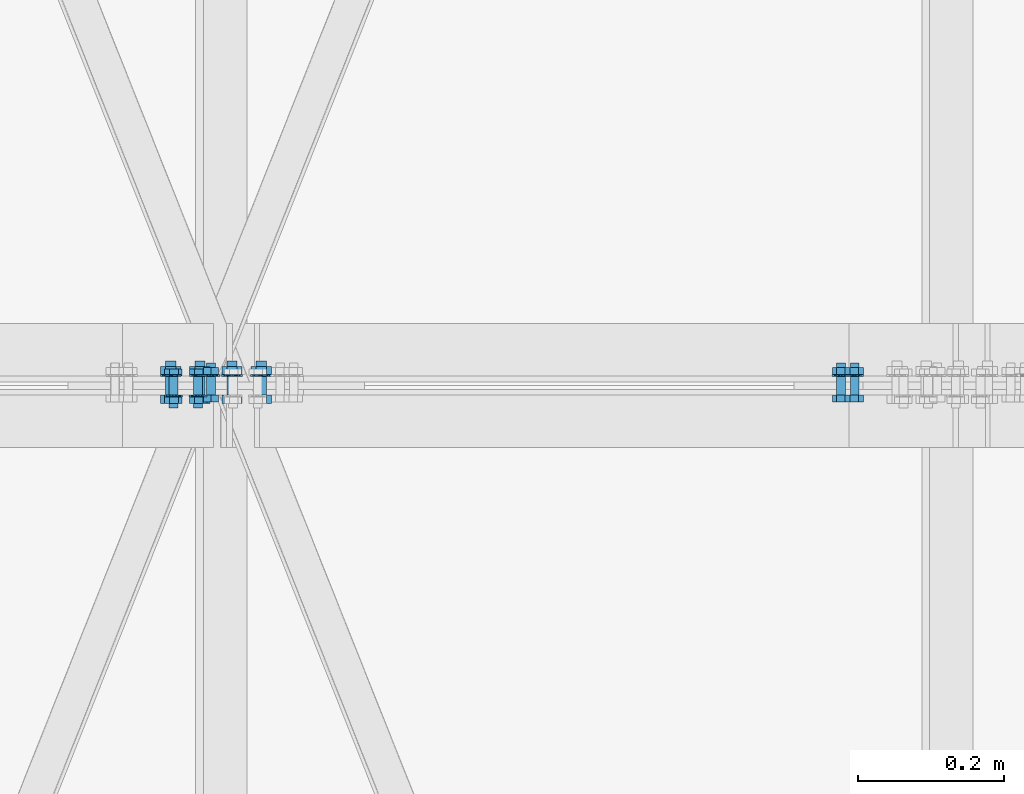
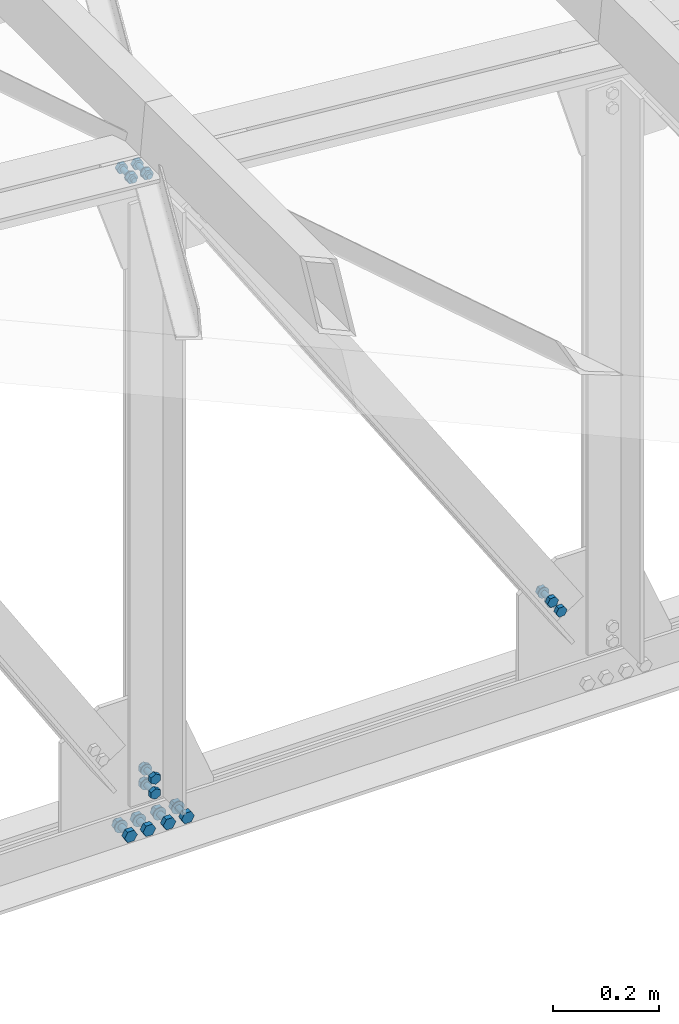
# One storey, part 168 of 251: 40 mechanical fasteners.
"""IFC4 building model written with IfcOpenShell, lengths in metres."""

from ifc_helpers import new_model, si_unit, frame, origin_with_axes, place, context, project, spatial, polyline, outline, extrude, type_object, element, save


model = new_model("IFC4")

# Units and contexts
model_context = context("Model", 3, precision=1e-05, world=origin_with_axes())
ifc_project = project(units=[si_unit("LENGTHUNIT", "METRE"), si_unit("AREAUNIT", "SQUARE_METRE"), si_unit("VOLUMEUNIT", "CUBIC_METRE"), si_unit("MASSUNIT", "GRAM", prefix="KILO"), si_unit("TIMEUNIT", "SECOND"), si_unit("PLANEANGLEUNIT", "RADIAN"), si_unit("SOLIDANGLEUNIT", "STERADIAN"), si_unit("THERMODYNAMICTEMPERATUREUNIT", "DEGREE_CELSIUS")], contexts=[model_context])

# Site, building, storey
placement_1 = place(None, origin_with_axes())
site = spatial("IfcSite", under=ifc_project, at=placement_1, Name="Italia", CompositionType="ELEMENT")
building = spatial("IfcBuilding", under=site, at=placement_1, Name="Deposito", CompositionType="ELEMENT")
storey = spatial("IfcBuildingStorey", under=building, at=placement_1, Name="Storey 0", CompositionType="ELEMENT", Elevation=0.0)

# Mechanical fasteners
mechanical_fastener_type_1 = type_object("IfcMechanicalFastenerType", Name="Reticolare 5", PredefinedType="BOLT")
placement_2 = place(placement_1, origin_with_axes())
mechanical_fastener_1_placement = place(placement_2, origin_with_axes())
element("IfcMechanicalFastener", 1, at=mechanical_fastener_1_placement, inside=storey, type_object=mechanical_fastener_type_1, Name="Reticolare 5", NominalDiameter=0.0139997, context=model_context, shape_type="SweptSolid", body=[
    extrude(outline(polyline([(0.0, 0.0), (-0.0139999, 0.0), (-0.0209999, 0.0121241), (-0.0139999, 0.0242486), (0.0, 0.0242486), (0.00699997, 0.0121241), (0.0, 0.0)])), frame((14.0078, 14.987, 4.99688), z_axis=(0.0, -1.0, 0.0), x_axis=(1.0, 0.0, 0.0)), (0.0, 0.0, 1.0), 0.0112009),
])
mechanical_fastener_type_2 = type_object("IfcMechanicalFastenerType", Name="Reticolare 5", PredefinedType="BOLT")
mechanical_fastener_2_placement = place(placement_2, origin_with_axes())
element("IfcMechanicalFastener", 2, at=mechanical_fastener_2_placement, inside=storey, type_object=mechanical_fastener_type_2, Name="Reticolare 5", NominalDiameter=0.014, context=model_context, shape_type="SweptSolid", body=[
    extrude(outline(polyline([(0.0, 0.0), (-0.000238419, -0.0018115), (-0.000937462, -0.00349998), (-0.0020504, -0.00494957), (-0.00349998, -0.00606203), (-0.00518799, -0.00676155), (-0.00699997, -0.00699997), (-0.00881195, -0.00676155), (-0.0105, -0.00606203), (-0.0119495, -0.00494957), (-0.0130625, -0.00349998), (-0.0137615, -0.0018115), (-0.0139999, 0.0), (-0.0137615, 0.0018115), (-0.0130625, 0.00349998), (-0.0119495, 0.00494957), (-0.0105, 0.00606203), (-0.00881195, 0.00676155), (-0.00699997, 0.00699997), (-0.00518799, 0.00676155), (-0.00349998, 0.00606203), (-0.0020504, 0.00494957), (-0.000937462, 0.00349998), (-0.000238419, 0.0018115), (0.0, 0.0)])), frame((14.0078, 15.034, 5.009), z_axis=(0.0, -1.0, 0.0), x_axis=(1.0, 0.0, 0.0)), (0.0, 0.0, 1.0), 0.0469999),
])
mechanical_fastener_type_3 = type_object("IfcMechanicalFastenerType", Name="Reticolare 5", PredefinedType="BOLT")
mechanical_fastener_3_placement = place(placement_2, origin_with_axes())
element("IfcMechanicalFastener", 3, at=mechanical_fastener_3_placement, inside=storey, type_object=mechanical_fastener_type_3, Name="Reticolare 5", NominalDiameter=0.0139997, context=model_context, shape_type="SweptSolid", body=[
    extrude(outline(polyline([(0.0, 0.0), (-0.0139999, 0.0), (-0.0209999, 0.0121241), (-0.0139999, 0.0242486), (0.0, 0.0242486), (0.00699997, 0.0121241), (0.0, 0.0)])), frame((14.0078, 15.0262, 4.99688), z_axis=(0.0, -1.0, 0.0), x_axis=(1.0, 0.0, 0.0)), (0.0, 0.0, 1.0), 0.0112),
])
mechanical_fastener_type_4 = type_object("IfcMechanicalFastenerType", Name="Reticolare 5", PredefinedType="BOLT")
mechanical_fastener_4_placement = place(placement_2, origin_with_axes())
element("IfcMechanicalFastener", 4, at=mechanical_fastener_4_placement, inside=storey, type_object=mechanical_fastener_type_4, Name="Reticolare 5", NominalDiameter=0.028, context=model_context, shape_type="SweptSolid", body=[
    extrude(outline(polyline([(0.0, 0.0), (-0.000476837, -0.00362349), (-0.00187588, -0.00699997), (-0.0041008, -0.00989962), (-0.00699997, -0.0121245), (-0.0103769, -0.0135231), (-0.0139999, -0.0139999), (-0.0176229, -0.0135231), (-0.0209999, -0.0121245), (-0.0238991, -0.00989962), (-0.026124, -0.00699997), (-0.027523, -0.00362349), (-0.0279999, 0.0), (-0.027523, 0.00362349), (-0.026124, 0.00699997), (-0.0238991, 0.00989962), (-0.0209999, 0.0121245), (-0.0176229, 0.0135231), (-0.0139999, 0.0139999), (-0.0103769, 0.0135231), (-0.00699997, 0.0121245), (-0.0041008, 0.00989962), (-0.00187588, 0.00699997), (-0.000476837, 0.00362349), (0.0, 0.0)])), frame((14.0148, 15.015, 5.009), z_axis=(0.0, -1.0, 0.0), x_axis=(1.0, 0.0, 0.0)), (0.0, 0.0, 1.0), 0.00200081),
])
mechanical_fastener_type_5 = type_object("IfcMechanicalFastenerType", Name="Reticolare 5", PredefinedType="BOLT")
mechanical_fastener_5_placement = place(placement_2, origin_with_axes())
element("IfcMechanicalFastener", 5, at=mechanical_fastener_5_placement, inside=storey, type_object=mechanical_fastener_type_5, Name="Reticolare 5", NominalDiameter=0.0139997, context=model_context, shape_type="SweptSolid", body=[
    extrude(outline(polyline([(0.0, 0.0), (-0.0139999, 0.0), (-0.0209999, 0.0121241), (-0.0139999, 0.0242486), (0.0, 0.0242486), (0.00699997, 0.0121241), (0.0, 0.0)])), frame((13.9678, 14.987, 4.99688), z_axis=(0.0, -1.0, 0.0), x_axis=(1.0, 0.0, 0.0)), (0.0, 0.0, 1.0), 0.0112009),
])
mechanical_fastener_type_6 = type_object("IfcMechanicalFastenerType", Name="Reticolare 5", PredefinedType="BOLT")
mechanical_fastener_6_placement = place(placement_2, origin_with_axes())
element("IfcMechanicalFastener", 6, at=mechanical_fastener_6_placement, inside=storey, type_object=mechanical_fastener_type_6, Name="Reticolare 5", NominalDiameter=0.014, context=model_context, shape_type="SweptSolid", body=[
    extrude(outline(polyline([(0.0, 0.0), (-0.000238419, -0.0018115), (-0.000937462, -0.00349998), (-0.0020504, -0.00494957), (-0.00349998, -0.00606203), (-0.00518799, -0.00676155), (-0.00699997, -0.00699997), (-0.00881195, -0.00676155), (-0.0105, -0.00606203), (-0.0119495, -0.00494957), (-0.0130625, -0.00349998), (-0.0137615, -0.0018115), (-0.0139999, 0.0), (-0.0137615, 0.0018115), (-0.0130625, 0.00349998), (-0.0119495, 0.00494957), (-0.0105, 0.00606203), (-0.00881195, 0.00676155), (-0.00699997, 0.00699997), (-0.00518799, 0.00676155), (-0.00349998, 0.00606203), (-0.0020504, 0.00494957), (-0.000937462, 0.00349998), (-0.000238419, 0.0018115), (0.0, 0.0)])), frame((13.9678, 15.034, 5.009), z_axis=(0.0, -1.0, 0.0), x_axis=(1.0, 0.0, 0.0)), (0.0, 0.0, 1.0), 0.0469999),
])
mechanical_fastener_type_7 = type_object("IfcMechanicalFastenerType", Name="Reticolare 5", PredefinedType="BOLT")
mechanical_fastener_7_placement = place(placement_2, origin_with_axes())
element("IfcMechanicalFastener", 7, at=mechanical_fastener_7_placement, inside=storey, type_object=mechanical_fastener_type_7, Name="Reticolare 5", NominalDiameter=0.0139997, context=model_context, shape_type="SweptSolid", body=[
    extrude(outline(polyline([(0.0, 0.0), (-0.0139999, 0.0), (-0.0209999, 0.0121241), (-0.0139999, 0.0242486), (0.0, 0.0242486), (0.00699997, 0.0121241), (0.0, 0.0)])), frame((13.9678, 15.0262, 4.99688), z_axis=(0.0, -1.0, 0.0), x_axis=(1.0, 0.0, 0.0)), (0.0, 0.0, 1.0), 0.0112),
])
mechanical_fastener_type_8 = type_object("IfcMechanicalFastenerType", Name="Reticolare 5", PredefinedType="BOLT")
mechanical_fastener_8_placement = place(placement_2, origin_with_axes())
element("IfcMechanicalFastener", 8, at=mechanical_fastener_8_placement, inside=storey, type_object=mechanical_fastener_type_8, Name="Reticolare 5", NominalDiameter=0.028, context=model_context, shape_type="SweptSolid", body=[
    extrude(outline(polyline([(0.0, 0.0), (-0.000476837, -0.00362349), (-0.00187588, -0.00699997), (-0.0041008, -0.00989962), (-0.00699997, -0.0121245), (-0.0103769, -0.0135231), (-0.0139999, -0.0139999), (-0.0176229, -0.0135231), (-0.0209999, -0.0121245), (-0.0238991, -0.00989962), (-0.026124, -0.00699997), (-0.027523, -0.00362349), (-0.0279999, 0.0), (-0.027523, 0.00362349), (-0.026124, 0.00699997), (-0.0238991, 0.00989962), (-0.0209999, 0.0121245), (-0.0176229, 0.0135231), (-0.0139999, 0.0139999), (-0.0103769, 0.0135231), (-0.00699997, 0.0121245), (-0.0041008, 0.00989962), (-0.00187588, 0.00699997), (-0.000476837, 0.00362349), (0.0, 0.0)])), frame((13.9748, 15.015, 5.009), z_axis=(0.0, -1.0, 0.0), x_axis=(1.0, 0.0, 0.0)), (0.0, 0.0, 1.0), 0.00200081),
])
mechanical_fastener_type_9 = type_object("IfcMechanicalFastenerType", Name="Reticolare 5", PredefinedType="BOLT")
mechanical_fastener_9_placement = place(placement_2, origin_with_axes())
element("IfcMechanicalFastener", 9, at=mechanical_fastener_9_placement, inside=storey, type_object=mechanical_fastener_type_9, Name="Reticolare 5", NominalDiameter=0.0139997, context=model_context, shape_type="SweptSolid", body=[
    extrude(outline(polyline([(0.0, 0.0), (-0.0139999, 0.0), (-0.0209999, 0.0121241), (-0.0139999, 0.0242486), (0.0, 0.0242486), (0.00699997, 0.0121241), (0.0, 0.0)])), frame((14.0518, 14.987, 4.99688), z_axis=(0.0, -1.0, 0.0), x_axis=(1.0, 0.0, 0.0)), (0.0, 0.0, 1.0), 0.0112009),
])
mechanical_fastener_type_10 = type_object("IfcMechanicalFastenerType", Name="Reticolare 5", PredefinedType="BOLT")
mechanical_fastener_10_placement = place(placement_2, origin_with_axes())
element("IfcMechanicalFastener", 10, at=mechanical_fastener_10_placement, inside=storey, type_object=mechanical_fastener_type_10, Name="Reticolare 5", NominalDiameter=0.014, context=model_context, shape_type="SweptSolid", body=[
    extrude(outline(polyline([(0.0, 0.0), (-0.000238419, -0.0018115), (-0.000937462, -0.00349998), (-0.0020504, -0.00494957), (-0.00349998, -0.00606203), (-0.00518799, -0.00676155), (-0.00699997, -0.00699997), (-0.00881195, -0.00676155), (-0.0105, -0.00606203), (-0.0119495, -0.00494957), (-0.0130625, -0.00349998), (-0.0137615, -0.0018115), (-0.0139999, 0.0), (-0.0137615, 0.0018115), (-0.0130625, 0.00349998), (-0.0119495, 0.00494957), (-0.0105, 0.00606203), (-0.00881195, 0.00676155), (-0.00699997, 0.00699997), (-0.00518799, 0.00676155), (-0.00349998, 0.00606203), (-0.0020504, 0.00494957), (-0.000937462, 0.00349998), (-0.000238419, 0.0018115), (0.0, 0.0)])), frame((14.0518, 15.034, 5.009), z_axis=(0.0, -1.0, 0.0), x_axis=(1.0, 0.0, 0.0)), (0.0, 0.0, 1.0), 0.0469999),
])
mechanical_fastener_type_11 = type_object("IfcMechanicalFastenerType", Name="Reticolare 5", PredefinedType="BOLT")
mechanical_fastener_11_placement = place(placement_2, origin_with_axes())
element("IfcMechanicalFastener", 11, at=mechanical_fastener_11_placement, inside=storey, type_object=mechanical_fastener_type_11, Name="Reticolare 5", NominalDiameter=0.0139997, context=model_context, shape_type="SweptSolid", body=[
    extrude(outline(polyline([(0.0, 0.0), (-0.0139999, 0.0), (-0.0209999, 0.0121241), (-0.0139999, 0.0242486), (0.0, 0.0242486), (0.00699997, 0.0121241), (0.0, 0.0)])), frame((14.0518, 15.0262, 4.99688), z_axis=(0.0, -1.0, 0.0), x_axis=(1.0, 0.0, 0.0)), (0.0, 0.0, 1.0), 0.0112),
])
mechanical_fastener_type_12 = type_object("IfcMechanicalFastenerType", Name="Reticolare 5", PredefinedType="BOLT")
mechanical_fastener_12_placement = place(placement_2, origin_with_axes())
element("IfcMechanicalFastener", 12, at=mechanical_fastener_12_placement, inside=storey, type_object=mechanical_fastener_type_12, Name="Reticolare 5", NominalDiameter=0.028, context=model_context, shape_type="SweptSolid", body=[
    extrude(outline(polyline([(0.0, 0.0), (-0.000476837, -0.00362349), (-0.00187588, -0.00699997), (-0.0041008, -0.00989962), (-0.00699997, -0.0121245), (-0.0103769, -0.0135231), (-0.0139999, -0.0139999), (-0.0176229, -0.0135231), (-0.0209999, -0.0121245), (-0.0238991, -0.00989962), (-0.026124, -0.00699997), (-0.027523, -0.00362349), (-0.0279999, 0.0), (-0.027523, 0.00362349), (-0.026124, 0.00699997), (-0.0238991, 0.00989962), (-0.0209999, 0.0121245), (-0.0176229, 0.0135231), (-0.0139999, 0.0139999), (-0.0103769, 0.0135231), (-0.00699997, 0.0121245), (-0.0041008, 0.00989962), (-0.00187588, 0.00699997), (-0.000476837, 0.00362349), (0.0, 0.0)])), frame((14.0588, 15.015, 5.009), z_axis=(0.0, -1.0, 0.0), x_axis=(1.0, 0.0, 0.0)), (0.0, 0.0, 1.0), 0.00200081),
])
mechanical_fastener_type_13 = type_object("IfcMechanicalFastenerType", Name="Reticolare 5", PredefinedType="BOLT")
mechanical_fastener_13_placement = place(placement_2, origin_with_axes())
element("IfcMechanicalFastener", 13, at=mechanical_fastener_13_placement, inside=storey, type_object=mechanical_fastener_type_13, Name="Reticolare 5", NominalDiameter=0.0139997, context=model_context, shape_type="SweptSolid", body=[
    extrude(outline(polyline([(0.0, 0.0), (-0.0139999, 0.0), (-0.0209999, 0.0121241), (-0.0139999, 0.0242486), (0.0, 0.0242486), (0.00699997, 0.0121241), (0.0, 0.0)])), frame((14.0918, 14.987, 4.99688), z_axis=(0.0, -1.0, 0.0), x_axis=(1.0, 0.0, 0.0)), (0.0, 0.0, 1.0), 0.0112009),
])
mechanical_fastener_type_14 = type_object("IfcMechanicalFastenerType", Name="Reticolare 5", PredefinedType="BOLT")
mechanical_fastener_14_placement = place(placement_2, origin_with_axes())
element("IfcMechanicalFastener", 14, at=mechanical_fastener_14_placement, inside=storey, type_object=mechanical_fastener_type_14, Name="Reticolare 5", NominalDiameter=0.014, context=model_context, shape_type="SweptSolid", body=[
    extrude(outline(polyline([(0.0, 0.0), (-0.000238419, -0.0018115), (-0.000937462, -0.00349998), (-0.0020504, -0.00494957), (-0.00349998, -0.00606203), (-0.00518799, -0.00676155), (-0.00699997, -0.00699997), (-0.00881195, -0.00676155), (-0.0105, -0.00606203), (-0.0119495, -0.00494957), (-0.0130625, -0.00349998), (-0.0137615, -0.0018115), (-0.0139999, 0.0), (-0.0137615, 0.0018115), (-0.0130625, 0.00349998), (-0.0119495, 0.00494957), (-0.0105, 0.00606203), (-0.00881195, 0.00676155), (-0.00699997, 0.00699997), (-0.00518799, 0.00676155), (-0.00349998, 0.00606203), (-0.0020504, 0.00494957), (-0.000937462, 0.00349998), (-0.000238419, 0.0018115), (0.0, 0.0)])), frame((14.0918, 15.034, 5.009), z_axis=(0.0, -1.0, 0.0), x_axis=(1.0, 0.0, 0.0)), (0.0, 0.0, 1.0), 0.0469999),
])
mechanical_fastener_type_15 = type_object("IfcMechanicalFastenerType", Name="Reticolare 5", PredefinedType="BOLT")
mechanical_fastener_15_placement = place(placement_2, origin_with_axes())
element("IfcMechanicalFastener", 15, at=mechanical_fastener_15_placement, inside=storey, type_object=mechanical_fastener_type_15, Name="Reticolare 5", NominalDiameter=0.0139997, context=model_context, shape_type="SweptSolid", body=[
    extrude(outline(polyline([(0.0, 0.0), (-0.0139999, 0.0), (-0.0209999, 0.0121241), (-0.0139999, 0.0242486), (0.0, 0.0242486), (0.00699997, 0.0121241), (0.0, 0.0)])), frame((14.0918, 15.0262, 4.99688), z_axis=(0.0, -1.0, 0.0), x_axis=(1.0, 0.0, 0.0)), (0.0, 0.0, 1.0), 0.0112),
])
mechanical_fastener_type_16 = type_object("IfcMechanicalFastenerType", Name="Reticolare 5", PredefinedType="BOLT")
mechanical_fastener_16_placement = place(placement_2, origin_with_axes())
element("IfcMechanicalFastener", 16, at=mechanical_fastener_16_placement, inside=storey, type_object=mechanical_fastener_type_16, Name="Reticolare 5", NominalDiameter=0.028, context=model_context, shape_type="SweptSolid", body=[
    extrude(outline(polyline([(0.0, 0.0), (-0.000476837, -0.00362349), (-0.00187588, -0.00699997), (-0.0041008, -0.00989962), (-0.00699997, -0.0121245), (-0.0103769, -0.0135231), (-0.0139999, -0.0139999), (-0.0176229, -0.0135231), (-0.0209999, -0.0121245), (-0.0238991, -0.00989962), (-0.026124, -0.00699997), (-0.027523, -0.00362349), (-0.0279999, 0.0), (-0.027523, 0.00362349), (-0.026124, 0.00699997), (-0.0238991, 0.00989962), (-0.0209999, 0.0121245), (-0.0176229, 0.0135231), (-0.0139999, 0.0139999), (-0.0103769, 0.0135231), (-0.00699997, 0.0121245), (-0.0041008, 0.00989962), (-0.00187588, 0.00699997), (-0.000476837, 0.00362349), (0.0, 0.0)])), frame((14.0988, 15.015, 5.009), z_axis=(0.0, -1.0, 0.0), x_axis=(1.0, 0.0, 0.0)), (0.0, 0.0, 1.0), 0.00200081),
])
mechanical_fastener_type_17 = type_object("IfcMechanicalFastenerType", Name="Reticolare 5", PredefinedType="BOLT")
mechanical_fastener_17_placement = place(placement_2, origin_with_axes())
element("IfcMechanicalFastener", 17, at=mechanical_fastener_17_placement, inside=storey, type_object=mechanical_fastener_type_17, Name="Reticolare 5", NominalDiameter=0.0119999, context=model_context, shape_type="SweptSolid", body=[
    extrude(outline(polyline([(0.0, 0.0), (0.0, -0.0120001), (-0.0103922, -0.0180001), (-0.0207844, -0.0120001), (-0.0207844, 0.0), (-0.0103922, 0.00600004), (0.0, 0.0)])), frame((14.0262, 14.987, 5.09253), z_axis=(0.0, -1.0, 0.0), x_axis=(1.0, 0.0, 0.0)), (0.0, 0.0, 1.0), 0.00960064),
])
mechanical_fastener_type_18 = type_object("IfcMechanicalFastenerType", Name="Reticolare 5", PredefinedType="BOLT")
mechanical_fastener_18_placement = place(placement_2, origin_with_axes())
element("IfcMechanicalFastener", 18, at=mechanical_fastener_18_placement, inside=storey, type_object=mechanical_fastener_type_18, Name="Reticolare 5", NominalDiameter=0.012, context=model_context, shape_type="SweptSolid", body=[
    extrude(outline(polyline([(0.0, 0.0), (-0.000204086, -0.00155306), (-0.000802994, -0.00299978), (-0.00175667, -0.00424242), (-0.00299931, -0.00519609), (-0.00444698, -0.00579548), (-0.00599957, -0.00600004), (-0.00755215, -0.00579548), (-0.00899982, -0.00519609), (-0.0102425, -0.00424242), (-0.0111961, -0.00299978), (-0.011795, -0.00155306), (-0.0119991, 0.0), (-0.011795, 0.00155306), (-0.0111961, 0.00299978), (-0.0102425, 0.00424242), (-0.00899982, 0.00519609), (-0.00755215, 0.00579548), (-0.00599957, 0.00600004), (-0.00444698, 0.00579548), (-0.00299931, 0.00519609), (-0.00175667, 0.00424242), (-0.000802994, 0.00299978), (-0.000204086, 0.00155306), (0.0, 0.0)])), frame((14.0218, 15.031, 5.08653), z_axis=(0.0, -1.0, 0.0), x_axis=(1.0, 0.0, 0.0)), (0.0, 0.0, 1.0), 0.0439997),
])
mechanical_fastener_type_19 = type_object("IfcMechanicalFastenerType", Name="Reticolare 5", PredefinedType="BOLT")
mechanical_fastener_19_placement = place(placement_2, origin_with_axes())
element("IfcMechanicalFastener", 19, at=mechanical_fastener_19_placement, inside=storey, type_object=mechanical_fastener_type_19, Name="Reticolare 5", NominalDiameter=0.0119999, context=model_context, shape_type="SweptSolid", body=[
    extrude(outline(polyline([(0.0, 0.0), (0.0, -0.0120001), (-0.0103922, -0.0180001), (-0.0207844, -0.0120001), (-0.0207844, 0.0), (-0.0103922, 0.00600004), (0.0, 0.0)])), frame((14.0262, 15.0246, 5.09253), z_axis=(0.0, -1.0, 0.0), x_axis=(1.0, 0.0, 0.0)), (0.0, 0.0, 1.0), 0.00959969),
])
mechanical_fastener_type_20 = type_object("IfcMechanicalFastenerType", Name="Reticolare 5", PredefinedType="BOLT")
mechanical_fastener_20_placement = place(placement_2, origin_with_axes())
element("IfcMechanicalFastener", 20, at=mechanical_fastener_20_placement, inside=storey, type_object=mechanical_fastener_type_20, Name="Reticolare 5", NominalDiameter=0.024, context=model_context, shape_type="SweptSolid", body=[
    extrude(outline(polyline([(0.0, 0.0), (-0.000409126, -0.00310564), (-0.00160789, -0.00600004), (-0.00351524, -0.00848532), (-0.00600052, -0.0103922), (-0.00889397, -0.011591), (-0.0120001, -0.0120001), (-0.0151062, -0.011591), (-0.0179996, -0.0103922), (-0.0204849, -0.00848532), (-0.0223923, -0.00600004), (-0.023591, -0.00310564), (-0.0240002, 0.0), (-0.023591, 0.00310564), (-0.0223923, 0.00600004), (-0.0204849, 0.00848532), (-0.0179996, 0.0103922), (-0.0151062, 0.011591), (-0.0120001, 0.0120001), (-0.00889397, 0.011591), (-0.00600052, 0.0103922), (-0.00351524, 0.00848532), (-0.00160789, 0.00600004), (-0.000409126, 0.00310564), (0.0, 0.0)])), frame((14.0278, 15.015, 5.08653), z_axis=(0.0, -1.0, 0.0), x_axis=(1.0, 0.0, 0.0)), (0.0, 0.0, 1.0), 0.00200081),
])
mechanical_fastener_type_21 = type_object("IfcMechanicalFastenerType", Name="Reticolare 5", PredefinedType="BOLT")
mechanical_fastener_21_placement = place(placement_2, origin_with_axes())
element("IfcMechanicalFastener", 21, at=mechanical_fastener_21_placement, inside=storey, type_object=mechanical_fastener_type_21, Name="Reticolare 5", NominalDiameter=0.0119999, context=model_context, shape_type="SweptSolid", body=[
    extrude(outline(polyline([(0.0, 0.0), (0.0, -0.0120001), (-0.0103922, -0.0180001), (-0.0207844, -0.0120001), (-0.0207844, 0.0), (-0.0103922, 0.00600004), (0.0, 0.0)])), frame((14.0262, 14.987, 5.12653), z_axis=(0.0, -1.0, 0.0), x_axis=(1.0, 0.0, 0.0)), (0.0, 0.0, 1.0), 0.00960064),
])
mechanical_fastener_type_22 = type_object("IfcMechanicalFastenerType", Name="Reticolare 5", PredefinedType="BOLT")
mechanical_fastener_22_placement = place(placement_2, origin_with_axes())
element("IfcMechanicalFastener", 22, at=mechanical_fastener_22_placement, inside=storey, type_object=mechanical_fastener_type_22, Name="Reticolare 5", NominalDiameter=0.012, context=model_context, shape_type="SweptSolid", body=[
    extrude(outline(polyline([(0.0, 0.0), (-0.000204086, -0.00155306), (-0.000802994, -0.00299978), (-0.00175667, -0.00424242), (-0.00299931, -0.00519609), (-0.00444698, -0.00579548), (-0.00599957, -0.00600004), (-0.00755215, -0.00579548), (-0.00899982, -0.00519609), (-0.0102425, -0.00424242), (-0.0111961, -0.00299978), (-0.011795, -0.00155306), (-0.0119991, 0.0), (-0.011795, 0.00155306), (-0.0111961, 0.00299978), (-0.0102425, 0.00424242), (-0.00899982, 0.00519609), (-0.00755215, 0.00579548), (-0.00599957, 0.00600004), (-0.00444698, 0.00579548), (-0.00299931, 0.00519609), (-0.00175667, 0.00424242), (-0.000802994, 0.00299978), (-0.000204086, 0.00155306), (0.0, 0.0)])), frame((14.0218, 15.031, 5.12053), z_axis=(0.0, -1.0, 0.0), x_axis=(1.0, 0.0, 0.0)), (0.0, 0.0, 1.0), 0.0439997),
])
mechanical_fastener_type_23 = type_object("IfcMechanicalFastenerType", Name="Reticolare 5", PredefinedType="BOLT")
mechanical_fastener_23_placement = place(placement_2, origin_with_axes())
element("IfcMechanicalFastener", 23, at=mechanical_fastener_23_placement, inside=storey, type_object=mechanical_fastener_type_23, Name="Reticolare 5", NominalDiameter=0.0119999, context=model_context, shape_type="SweptSolid", body=[
    extrude(outline(polyline([(0.0, 0.0), (0.0, -0.0120001), (-0.0103922, -0.0180001), (-0.0207844, -0.0120001), (-0.0207844, 0.0), (-0.0103922, 0.00600004), (0.0, 0.0)])), frame((14.0262, 15.0246, 5.12653), z_axis=(0.0, -1.0, 0.0), x_axis=(1.0, 0.0, 0.0)), (0.0, 0.0, 1.0), 0.00959969),
])
mechanical_fastener_type_24 = type_object("IfcMechanicalFastenerType", Name="Reticolare 5", PredefinedType="BOLT")
mechanical_fastener_24_placement = place(placement_2, origin_with_axes())
element("IfcMechanicalFastener", 24, at=mechanical_fastener_24_placement, inside=storey, type_object=mechanical_fastener_type_24, Name="Reticolare 5", NominalDiameter=0.024, context=model_context, shape_type="SweptSolid", body=[
    extrude(outline(polyline([(0.0, 0.0), (-0.000409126, -0.00310564), (-0.00160789, -0.00600004), (-0.00351524, -0.00848532), (-0.00600052, -0.0103922), (-0.00889397, -0.011591), (-0.0120001, -0.0120001), (-0.0151062, -0.011591), (-0.0179996, -0.0103922), (-0.0204849, -0.00848532), (-0.0223923, -0.00600004), (-0.023591, -0.00310564), (-0.0240002, 0.0), (-0.023591, 0.00310564), (-0.0223923, 0.00600004), (-0.0204849, 0.00848532), (-0.0179996, 0.0103922), (-0.0151062, 0.011591), (-0.0120001, 0.0120001), (-0.00889397, 0.011591), (-0.00600052, 0.0103922), (-0.00351524, 0.00848532), (-0.00160789, 0.00600004), (-0.000409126, 0.00310564), (0.0, 0.0)])), frame((14.0278, 15.015, 5.12053), z_axis=(0.0, -1.0, 0.0), x_axis=(1.0, 0.0, 0.0)), (0.0, 0.0, 1.0), 0.00200081),
])
mechanical_fastener_type_25 = type_object("IfcMechanicalFastenerType", Name="Reticolare 5", PredefinedType="BOLT")
mechanical_fastener_25_placement = place(placement_2, origin_with_axes())
element("IfcMechanicalFastener", 25, at=mechanical_fastener_25_placement, inside=storey, type_object=mechanical_fastener_type_25, Name="Reticolare 5", NominalDiameter=0.0119998, context=model_context, shape_type="SweptSolid", body=[
    extrude(outline(polyline([(0.0, 0.0), (-0.00656891, 0.0100422), (-0.00115681, 0.0207524), (0.0108252, 0.02142), (0.0173941, 0.0113778), (0.011982, 0.000667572), (0.0, 0.0)])), frame((14.8934, 14.987, 5.1858), z_axis=(0.0, -1.0, 0.0), x_axis=(1.0, 0.0, 0.0)), (0.0, 0.0, 1.0), 0.00960064),
])
mechanical_fastener_type_26 = type_object("IfcMechanicalFastenerType", Name="Reticolare 5", PredefinedType="BOLT")
mechanical_fastener_26_placement = place(placement_2, origin_with_axes())
element("IfcMechanicalFastener", 26, at=mechanical_fastener_26_placement, inside=storey, type_object=mechanical_fastener_type_26, Name="Reticolare 5", NominalDiameter=0.012, context=model_context, shape_type="SweptSolid", body=[
    extrude(outline(polyline([(0.0, 0.0), (-0.000204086, -0.00155306), (-0.000802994, -0.00299978), (-0.00175667, -0.00424242), (-0.00299931, -0.00519609), (-0.00444698, -0.00579548), (-0.00599957, -0.00600004), (-0.00755215, -0.00579548), (-0.00899982, -0.00519609), (-0.0102425, -0.00424242), (-0.0111961, -0.00299978), (-0.011795, -0.00155306), (-0.0119991, 0.0), (-0.011795, 0.00155306), (-0.0111961, 0.00299978), (-0.0102425, 0.00424242), (-0.00899982, 0.00519609), (-0.00755215, 0.00579548), (-0.00599957, 0.00600004), (-0.00444698, 0.00579548), (-0.00299931, 0.00519609), (-0.00175667, 0.00424242), (-0.000802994, 0.00299978), (-0.000204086, 0.00155306), (0.0, 0.0)])), frame((14.9048, 15.031, 5.19651), z_axis=(0.0, -1.0, 0.0), x_axis=(1.0, 0.0, 0.0)), (0.0, 0.0, 1.0), 0.0439997),
])
mechanical_fastener_type_27 = type_object("IfcMechanicalFastenerType", Name="Reticolare 5", PredefinedType="BOLT")
mechanical_fastener_27_placement = place(placement_2, origin_with_axes())
element("IfcMechanicalFastener", 27, at=mechanical_fastener_27_placement, inside=storey, type_object=mechanical_fastener_type_27, Name="Reticolare 5", NominalDiameter=0.0119998, context=model_context, shape_type="SweptSolid", body=[
    extrude(outline(polyline([(0.0, 0.0), (-0.00656891, 0.0100422), (-0.00115681, 0.0207524), (0.0108252, 0.02142), (0.0173941, 0.0113778), (0.011982, 0.000667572), (0.0, 0.0)])), frame((14.8934, 15.0246, 5.1858), z_axis=(0.0, -1.0, 0.0), x_axis=(1.0, 0.0, 0.0)), (0.0, 0.0, 1.0), 0.00959969),
])
mechanical_fastener_type_28 = type_object("IfcMechanicalFastenerType", Name="Reticolare 5", PredefinedType="BOLT")
mechanical_fastener_28_placement = place(placement_2, origin_with_axes())
element("IfcMechanicalFastener", 28, at=mechanical_fastener_28_placement, inside=storey, type_object=mechanical_fastener_type_28, Name="Reticolare 5", NominalDiameter=0.024, context=model_context, shape_type="SweptSolid", body=[
    extrude(outline(polyline([(0.0, 0.0), (-0.000409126, -0.00310564), (-0.00160789, -0.00600004), (-0.00351524, -0.00848532), (-0.00600052, -0.0103922), (-0.00889397, -0.011591), (-0.0120001, -0.0120001), (-0.0151062, -0.011591), (-0.0179996, -0.0103922), (-0.0204849, -0.00848532), (-0.0223923, -0.00600004), (-0.023591, -0.00310564), (-0.0240002, 0.0), (-0.023591, 0.00310564), (-0.0223923, 0.00600004), (-0.0204849, 0.00848532), (-0.0179996, 0.0103922), (-0.0151062, 0.011591), (-0.0120001, 0.0120001), (-0.00889397, 0.011591), (-0.00600052, 0.0103922), (-0.00351524, 0.00848532), (-0.00160789, 0.00600004), (-0.000409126, 0.00310564), (0.0, 0.0)])), frame((14.9108, 15.015, 5.19651), z_axis=(0.0, -1.0, 0.0), x_axis=(1.0, 0.0, 0.0)), (0.0, 0.0, 1.0), 0.00200081),
])
mechanical_fastener_type_29 = type_object("IfcMechanicalFastenerType", Name="Reticolare 5", PredefinedType="BOLT")
mechanical_fastener_29_placement = place(placement_2, origin_with_axes())
element("IfcMechanicalFastener", 29, at=mechanical_fastener_29_placement, inside=storey, type_object=mechanical_fastener_type_29, Name="Reticolare 5", NominalDiameter=0.0119996, context=model_context, shape_type="SweptSolid", body=[
    extrude(outline(polyline([(0.0, 0.0), (-0.00656891, 0.0100422), (-0.00115681, 0.0207524), (0.0108252, 0.02142), (0.0173941, 0.0113778), (0.011981, 0.000667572), (0.0, 0.0)])), frame((14.8748, 14.987, 5.21426), z_axis=(0.0, -1.0, 0.0), x_axis=(1.0, 0.0, 0.0)), (0.0, 0.0, 1.0), 0.00960064),
])
mechanical_fastener_type_30 = type_object("IfcMechanicalFastenerType", Name="Reticolare 5", PredefinedType="BOLT")
mechanical_fastener_30_placement = place(placement_2, origin_with_axes())
element("IfcMechanicalFastener", 30, at=mechanical_fastener_30_placement, inside=storey, type_object=mechanical_fastener_type_30, Name="Reticolare 5", NominalDiameter=0.012, context=model_context, shape_type="SweptSolid", body=[
    extrude(outline(polyline([(0.0, 0.0), (-0.000204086, -0.00155306), (-0.000802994, -0.00299978), (-0.00175667, -0.00424242), (-0.00299931, -0.00519609), (-0.00444698, -0.00579548), (-0.00599957, -0.00600004), (-0.00755215, -0.00579548), (-0.00899982, -0.00519609), (-0.0102425, -0.00424242), (-0.0111961, -0.00299978), (-0.011795, -0.00155306), (-0.0119991, 0.0), (-0.011795, 0.00155306), (-0.0111961, 0.00299978), (-0.0102425, 0.00424242), (-0.00899982, 0.00519609), (-0.00755215, 0.00579548), (-0.00599957, 0.00600004), (-0.00444698, 0.00579548), (-0.00299931, 0.00519609), (-0.00175667, 0.00424242), (-0.000802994, 0.00299978), (-0.000204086, 0.00155306), (0.0, 0.0)])), frame((14.8862, 15.031, 5.22497), z_axis=(0.0, -1.0, 0.0), x_axis=(1.0, 0.0, 0.0)), (0.0, 0.0, 1.0), 0.0439997),
])
mechanical_fastener_type_31 = type_object("IfcMechanicalFastenerType", Name="Reticolare 5", PredefinedType="BOLT")
mechanical_fastener_31_placement = place(placement_2, origin_with_axes())
element("IfcMechanicalFastener", 31, at=mechanical_fastener_31_placement, inside=storey, type_object=mechanical_fastener_type_31, Name="Reticolare 5", NominalDiameter=0.0119996, context=model_context, shape_type="SweptSolid", body=[
    extrude(outline(polyline([(0.0, 0.0), (-0.00656891, 0.0100422), (-0.00115681, 0.0207524), (0.0108252, 0.02142), (0.0173941, 0.0113778), (0.011981, 0.000667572), (0.0, 0.0)])), frame((14.8748, 15.0246, 5.21426), z_axis=(0.0, -1.0, 0.0), x_axis=(1.0, 0.0, 0.0)), (0.0, 0.0, 1.0), 0.00959969),
])
mechanical_fastener_type_32 = type_object("IfcMechanicalFastenerType", Name="Reticolare 5", PredefinedType="BOLT")
mechanical_fastener_32_placement = place(placement_2, origin_with_axes())
element("IfcMechanicalFastener", 32, at=mechanical_fastener_32_placement, inside=storey, type_object=mechanical_fastener_type_32, Name="Reticolare 5", NominalDiameter=0.024, context=model_context, shape_type="SweptSolid", body=[
    extrude(outline(polyline([(0.0, 0.0), (-0.000409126, -0.00310564), (-0.00160789, -0.00600004), (-0.00351524, -0.00848532), (-0.00600052, -0.0103922), (-0.00889397, -0.011591), (-0.0120001, -0.0120001), (-0.0151062, -0.011591), (-0.0179996, -0.0103922), (-0.0204849, -0.00848532), (-0.0223923, -0.00600004), (-0.023591, -0.00310564), (-0.0240002, 0.0), (-0.023591, 0.00310564), (-0.0223923, 0.00600004), (-0.0204849, 0.00848532), (-0.0179996, 0.0103922), (-0.0151062, 0.011591), (-0.0120001, 0.0120001), (-0.00889397, 0.011591), (-0.00600052, 0.0103922), (-0.00351524, 0.00848532), (-0.00160789, 0.00600004), (-0.000409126, 0.00310564), (0.0, 0.0)])), frame((14.8922, 15.015, 5.22497), z_axis=(0.0, -1.0, 0.0), x_axis=(1.0, 0.0, 0.0)), (0.0, 0.0, 1.0), 0.00200081),
])
mechanical_fastener_type_33 = type_object("IfcMechanicalFastenerType", Name="Reticolare 5", PredefinedType="BOLT")
mechanical_fastener_33_placement = place(placement_2, origin_with_axes())
element("IfcMechanicalFastener", 33, at=mechanical_fastener_33_placement, inside=storey, type_object=mechanical_fastener_type_33, Name="Reticolare 5", NominalDiameter=0.0119996, context=model_context, shape_type="SweptSolid", body=[
    extrude(outline(polyline([(0.0, 0.0), (0.0119572, 0.001019), (0.0188179, -0.00882626), (0.0137215, -0.0196905), (0.00176525, -0.0207095), (-0.00509548, -0.0108643), (0.0, 0.0)])), frame((14.0052, 15.013, 6.52784), z_axis=(0.0, 1.0, 0.0), x_axis=(-1.0, 0.0, 0.0)), (0.0, 0.0, 1.0), 0.00960064),
])
mechanical_fastener_type_34 = type_object("IfcMechanicalFastenerType", Name="Reticolare 5", PredefinedType="BOLT")
mechanical_fastener_34_placement = place(placement_2, origin_with_axes())
element("IfcMechanicalFastener", 34, at=mechanical_fastener_34_placement, inside=storey, type_object=mechanical_fastener_type_34, Name="Reticolare 5", NominalDiameter=0.012, context=model_context, shape_type="SweptSolid", body=[
    extrude(outline(polyline([(0.0, 0.0), (-0.000204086, -0.00155306), (-0.000802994, -0.00299978), (-0.00175667, -0.00424242), (-0.00299931, -0.00519609), (-0.00444698, -0.00579548), (-0.00599957, -0.00600004), (-0.00755215, -0.00579548), (-0.00899982, -0.00519609), (-0.0102425, -0.00424242), (-0.0111961, -0.00299978), (-0.011795, -0.00155306), (-0.0119991, 0.0), (-0.011795, 0.00155306), (-0.0111961, 0.00299978), (-0.0102425, 0.00424242), (-0.00899982, 0.00519609), (-0.00755215, 0.00579548), (-0.00599957, 0.00600004), (-0.00444698, 0.00579548), (-0.00299931, 0.00519609), (-0.00175667, 0.00424242), (-0.000802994, 0.00299978), (-0.000204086, 0.00155306), (0.0, 0.0)])), frame((13.9923, 14.969, 6.518), z_axis=(0.0, 1.0, 0.0), x_axis=(-1.0, 0.0, 0.0)), (0.0, 0.0, 1.0), 0.0439997),
])
mechanical_fastener_type_35 = type_object("IfcMechanicalFastenerType", Name="Reticolare 5", PredefinedType="BOLT")
mechanical_fastener_35_placement = place(placement_2, origin_with_axes())
element("IfcMechanicalFastener", 35, at=mechanical_fastener_35_placement, inside=storey, type_object=mechanical_fastener_type_35, Name="Reticolare 5", NominalDiameter=0.0119996, context=model_context, shape_type="SweptSolid", body=[
    extrude(outline(polyline([(0.0, 0.0), (0.0119572, 0.001019), (0.0188179, -0.00882626), (0.0137215, -0.0196905), (0.00176525, -0.0207095), (-0.00509548, -0.0108643), (0.0, 0.0)])), frame((14.0052, 14.9754, 6.52784), z_axis=(0.0, 1.0, 0.0), x_axis=(-1.0, 0.0, 0.0)), (0.0, 0.0, 1.0), 0.00959969),
])
mechanical_fastener_type_36 = type_object("IfcMechanicalFastenerType", Name="Reticolare 5", PredefinedType="BOLT")
mechanical_fastener_36_placement = place(placement_2, origin_with_axes())
element("IfcMechanicalFastener", 36, at=mechanical_fastener_36_placement, inside=storey, type_object=mechanical_fastener_type_36, Name="Reticolare 5", NominalDiameter=0.024, context=model_context, shape_type="SweptSolid", body=[
    extrude(outline(polyline([(0.0, 0.0), (-0.000409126, -0.00310564), (-0.00160789, -0.00600004), (-0.00351524, -0.00848532), (-0.00600052, -0.0103922), (-0.00889397, -0.011591), (-0.0120001, -0.0120001), (-0.0151062, -0.011591), (-0.0179996, -0.0103922), (-0.0204849, -0.00848532), (-0.0223923, -0.00600004), (-0.023591, -0.00310564), (-0.0240002, 0.0), (-0.023591, 0.00310564), (-0.0223923, 0.00600004), (-0.0204849, 0.00848532), (-0.0179996, 0.0103922), (-0.0151062, 0.011591), (-0.0120001, 0.0120001), (-0.00889397, 0.011591), (-0.00600052, 0.0103922), (-0.00351524, 0.00848532), (-0.00160789, 0.00600004), (-0.000409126, 0.00310564), (0.0, 0.0)])), frame((13.9863, 14.985, 6.518), z_axis=(0.0, 1.0, 0.0), x_axis=(-1.0, 0.0, 0.0)), (0.0, 0.0, 1.0), 0.00200081),
])
mechanical_fastener_type_37 = type_object("IfcMechanicalFastenerType", Name="Reticolare 5", PredefinedType="BOLT")
mechanical_fastener_37_placement = place(placement_2, origin_with_axes())
element("IfcMechanicalFastener", 37, at=mechanical_fastener_37_placement, inside=storey, type_object=mechanical_fastener_type_37, Name="Reticolare 5", NominalDiameter=0.0119996, context=model_context, shape_type="SweptSolid", body=[
    extrude(outline(polyline([(0.0, 0.0), (0.0119572, 0.001019), (0.0188179, -0.00882673), (0.0137215, -0.0196905), (0.00176525, -0.0207095), (-0.00509548, -0.0108643), (0.0, 0.0)])), frame((13.9713, 15.013, 6.53073), z_axis=(0.0, 1.0, 0.0), x_axis=(-1.0, 0.0, 0.0)), (0.0, 0.0, 1.0), 0.00960064),
])
mechanical_fastener_type_38 = type_object("IfcMechanicalFastenerType", Name="Reticolare 5", PredefinedType="BOLT")
mechanical_fastener_38_placement = place(placement_2, origin_with_axes())
element("IfcMechanicalFastener", 38, at=mechanical_fastener_38_placement, inside=storey, type_object=mechanical_fastener_type_38, Name="Reticolare 5", NominalDiameter=0.012, context=model_context, shape_type="SweptSolid", body=[
    extrude(outline(polyline([(0.0, 0.0), (-0.000204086, -0.00155306), (-0.000802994, -0.00299978), (-0.00175667, -0.00424242), (-0.00299931, -0.00519609), (-0.00444698, -0.00579548), (-0.00599957, -0.00600004), (-0.00755215, -0.00579548), (-0.00899982, -0.00519609), (-0.0102425, -0.00424242), (-0.0111961, -0.00299978), (-0.011795, -0.00155306), (-0.0119991, 0.0), (-0.011795, 0.00155306), (-0.0111961, 0.00299978), (-0.0102425, 0.00424242), (-0.00899982, 0.00519609), (-0.00755215, 0.00579548), (-0.00599957, 0.00600004), (-0.00444698, 0.00579548), (-0.00299931, 0.00519609), (-0.00175667, 0.00424242), (-0.000802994, 0.00299978), (-0.000204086, 0.00155306), (0.0, 0.0)])), frame((13.9584, 14.969, 6.52089), z_axis=(0.0, 1.0, 0.0), x_axis=(-1.0, 0.0, 0.0)), (0.0, 0.0, 1.0), 0.0439997),
])
mechanical_fastener_type_39 = type_object("IfcMechanicalFastenerType", Name="Reticolare 5", PredefinedType="BOLT")
mechanical_fastener_39_placement = place(placement_2, origin_with_axes())
element("IfcMechanicalFastener", 39, at=mechanical_fastener_39_placement, inside=storey, type_object=mechanical_fastener_type_39, Name="Reticolare 5", NominalDiameter=0.0119996, context=model_context, shape_type="SweptSolid", body=[
    extrude(outline(polyline([(0.0, 0.0), (0.0119572, 0.001019), (0.0188179, -0.00882673), (0.0137215, -0.0196905), (0.00176525, -0.0207095), (-0.00509548, -0.0108643), (0.0, 0.0)])), frame((13.9713, 14.9754, 6.53073), z_axis=(0.0, 1.0, 0.0), x_axis=(-1.0, 0.0, 0.0)), (0.0, 0.0, 1.0), 0.00959969),
])
mechanical_fastener_type_40 = type_object("IfcMechanicalFastenerType", Name="Reticolare 5", PredefinedType="BOLT")
mechanical_fastener_40_placement = place(placement_2, origin_with_axes())
element("IfcMechanicalFastener", 40, at=mechanical_fastener_40_placement, inside=storey, type_object=mechanical_fastener_type_40, Name="Reticolare 5", NominalDiameter=0.024, context=model_context, shape_type="SweptSolid", body=[
    extrude(outline(polyline([(0.0, 0.0), (-0.000409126, -0.00310564), (-0.00160789, -0.00600004), (-0.00351524, -0.00848532), (-0.00600052, -0.0103922), (-0.00889397, -0.011591), (-0.0120001, -0.0120001), (-0.0151062, -0.011591), (-0.0179996, -0.0103922), (-0.0204849, -0.00848532), (-0.0223923, -0.00600004), (-0.023591, -0.00310564), (-0.0240002, 0.0), (-0.023591, 0.00310564), (-0.0223923, 0.00600004), (-0.0204849, 0.00848532), (-0.0179996, 0.0103922), (-0.0151062, 0.011591), (-0.0120001, 0.0120001), (-0.00889397, 0.011591), (-0.00600052, 0.0103922), (-0.00351524, 0.00848532), (-0.00160789, 0.00600004), (-0.000409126, 0.00310564), (0.0, 0.0)])), frame((13.9524, 14.985, 6.52089), z_axis=(0.0, 1.0, 0.0), x_axis=(-1.0, 0.0, 0.0)), (0.0, 0.0, 1.0), 0.00200081),
])

save(model, "model.ifc")
